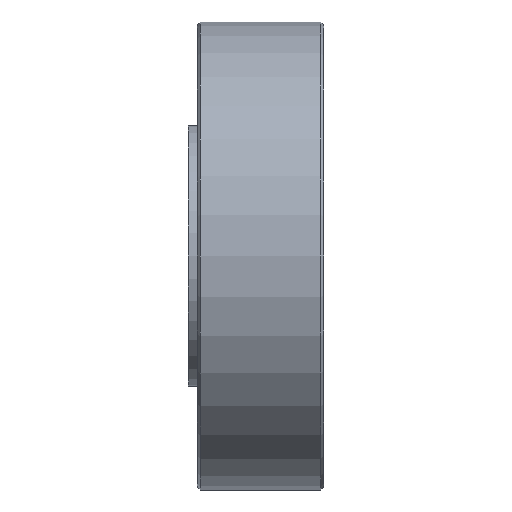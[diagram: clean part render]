
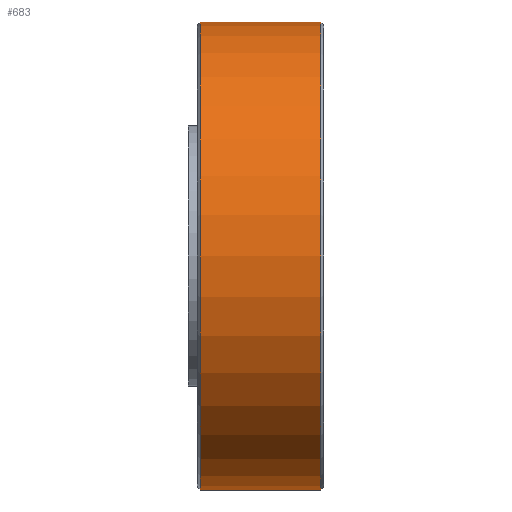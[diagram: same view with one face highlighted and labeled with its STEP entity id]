
A CAD part, left-side view. The second image highlights one B-rep face of the part: STEP entity #683.
In plain terms, the highlighted cylindrical face has radius 26 mm (diameter 52 mm), a partial arc.
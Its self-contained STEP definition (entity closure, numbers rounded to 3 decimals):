
#145 = CARTESIAN_POINT ( 'NONE',  ( 0., -7.2, 26. ) ) ;
#175 = DIRECTION ( 'NONE',  ( 0., 0., 1. ) ) ;
#199 = VERTEX_POINT ( 'NONE', #145 ) ;
#201 = LINE ( 'NONE', #1357, #2353 ) ;
#309 = VERTEX_POINT ( 'NONE', #1874 ) ;
#322 = EDGE_CURVE ( 'NONE', #2216, #199, #2318, .T. ) ;
#355 = AXIS2_PLACEMENT_3D ( 'NONE', #2032, #705, #904 ) ;
#526 = DIRECTION ( 'NONE',  ( 0., -1., 0. ) ) ;
#547 = CARTESIAN_POINT ( 'NONE',  ( 0., -7.2, 0. ) ) ;
#628 = ORIENTED_EDGE ( 'NONE', *, *, #322, .T. ) ;
#683 = ADVANCED_FACE ( 'NONE', ( #1818 ), #1468, .T. ) ;
#705 = DIRECTION ( 'NONE',  ( 0., -1., 0. ) ) ;
#719 = ORIENTED_EDGE ( 'NONE', *, *, #1657, .F. ) ;
#811 = EDGE_CURVE ( 'NONE', #309, #1409, #2289, .T. ) ;
#904 = DIRECTION ( 'NONE',  ( 0., 0., -1. ) ) ;
#955 = ORIENTED_EDGE ( 'NONE', *, *, #1901, .T. ) ;
#1078 = ORIENTED_EDGE ( 'NONE', *, *, #811, .T. ) ;
#1123 = EDGE_LOOP ( 'NONE', ( #719, #1078, #955, #628 ) ) ;
#1216 = AXIS2_PLACEMENT_3D ( 'NONE', #2447, #526, #175 ) ;
#1306 = DIRECTION ( 'NONE',  ( 0., 0., 1. ) ) ;
#1357 = CARTESIAN_POINT ( 'NONE',  ( 0., 7.5, -26. ) ) ;
#1370 = DIRECTION ( 'NONE',  ( 0., -1., 0. ) ) ;
#1402 = LINE ( 'NONE', #1613, #2253 ) ;
#1409 = VERTEX_POINT ( 'NONE', #1469 ) ;
#1468 = CYLINDRICAL_SURFACE ( 'NONE', #355, 26. ) ;
#1469 = CARTESIAN_POINT ( 'NONE',  ( 0., 6.2, -26. ) ) ;
#1613 = CARTESIAN_POINT ( 'NONE',  ( 0., 7.5, 26. ) ) ;
#1657 = EDGE_CURVE ( 'NONE', #309, #199, #1402, .T. ) ;
#1818 = FACE_OUTER_BOUND ( 'NONE', #1123, .T. ) ;
#1874 = CARTESIAN_POINT ( 'NONE',  ( 0., 6.2, 26. ) ) ;
#1901 = EDGE_CURVE ( 'NONE', #1409, #2216, #201, .T. ) ;
#2032 = CARTESIAN_POINT ( 'NONE',  ( 0., 7.5, 0. ) ) ;
#2161 = AXIS2_PLACEMENT_3D ( 'NONE', #547, #2454, #1306 ) ;
#2216 = VERTEX_POINT ( 'NONE', #2256 ) ;
#2253 = VECTOR ( 'NONE', #2366, 1000. ) ;
#2256 = CARTESIAN_POINT ( 'NONE',  ( 0., -7.2, -26. ) ) ;
#2289 = CIRCLE ( 'NONE', #1216, 26. ) ;
#2318 = CIRCLE ( 'NONE', #2161, 26. ) ;
#2353 = VECTOR ( 'NONE', #1370, 1000. ) ;
#2366 = DIRECTION ( 'NONE',  ( 0., -1., 0. ) ) ;
#2447 = CARTESIAN_POINT ( 'NONE',  ( 0., 6.2, 0. ) ) ;
#2454 = DIRECTION ( 'NONE',  ( 0., 1., 0. ) ) ;
